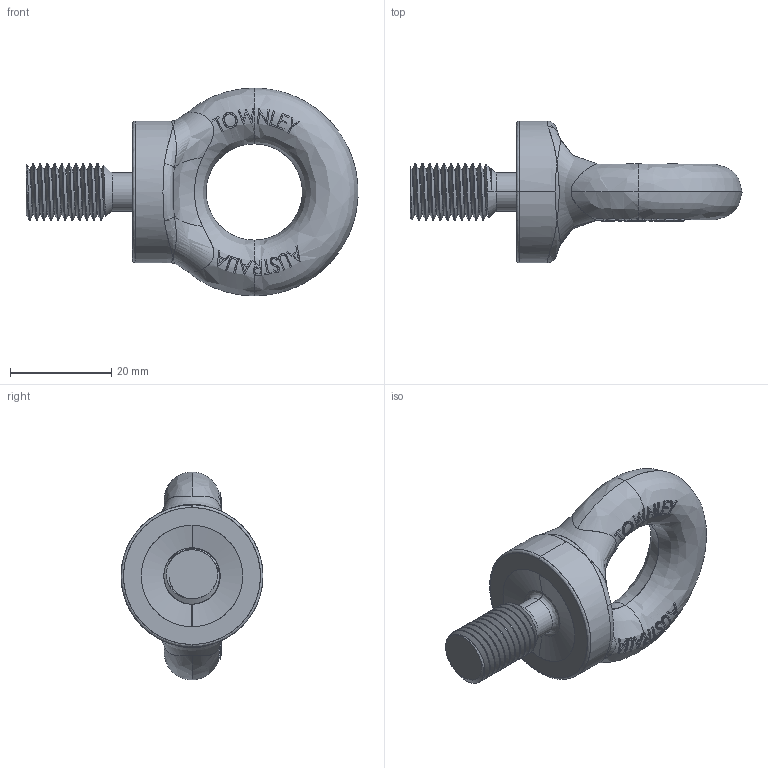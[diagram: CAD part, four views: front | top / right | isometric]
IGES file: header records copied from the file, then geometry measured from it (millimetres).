
Start section: SolidWorks IGES file using analytic representation for surfaces
Global section: file name: C:\Users\Brenton\Documents\Townley\Eye Bolts\Imperial\EBBSF437\EBBSF437.IGS; native system: SolidWorks 2012; preprocessor: SolidWorks 2012; author: Brenton; date: 141217.150853; units: millimetre
Bounding box: 65.48 x 28 x 41 mm (x, y, z)
Surface area: 5618.3 mm2 (no closed solid volume)
Topology: 0 solids, 0 shells, 246 faces, 3198 edges, 3190 vertices
Faces by surface type: bspline 215, revolution 31
